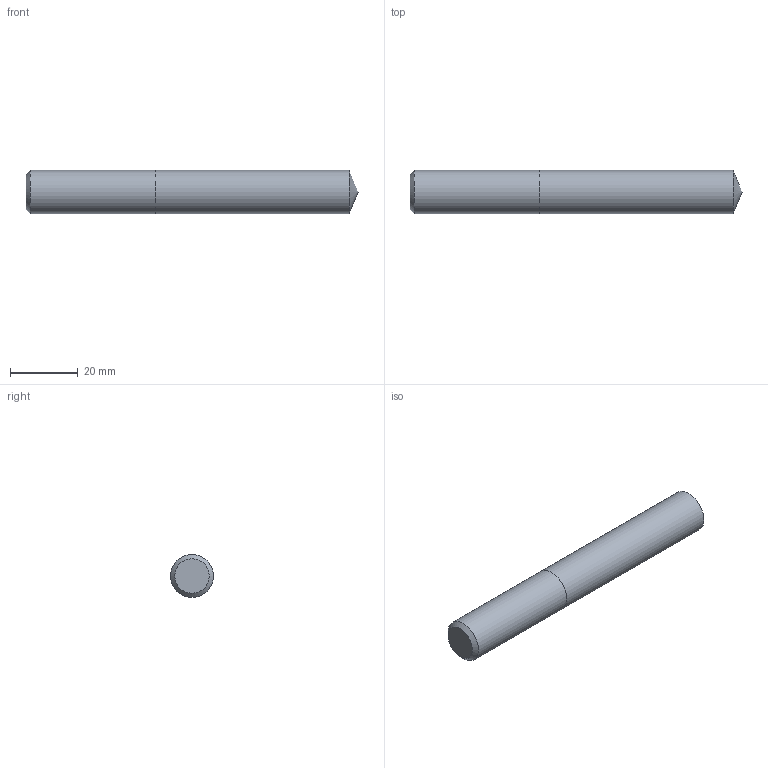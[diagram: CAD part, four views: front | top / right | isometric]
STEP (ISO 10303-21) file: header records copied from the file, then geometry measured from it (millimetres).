
FILE_DESCRIPTION (( 'STEP AP214' ), '1' );
FILE_NAME ('03-2431.STEP', '2022-06-03T07:41:16', ( 'USER' ), ( '' ), 'SwSTEP 2.0', 'SolidWorks 2018', '' );
FILE_SCHEMA (( 'AUTOMOTIVE_DESIGN' ));
Length unit declared in the file: inch
Products named in the file (1): 03-2431
Bounding box: 97.88 x 12.7 x 12.7 mm (x, y, z)
Volume: 12147 mm3; surface area: 4285.7 mm2
Topology: 2 solids, 2 shells, 7 faces, 11 edges, 7 vertices
Faces by surface type: plane 3, cylinder 2, cone 2
Full cylindrical faces by diameter (mm): 12.7 x2
Entity records: 214 total; most frequent: DIRECTION 26, CARTESIAN_POINT 18, AXIS2_PLACEMENT_3D 13, EDGE_LOOP 10, ORIENTED_EDGE 10, FACE_OUTER_BOUND 9, DIMENSIONAL_EXPONENTS 7, ADVANCED_FACE 7
